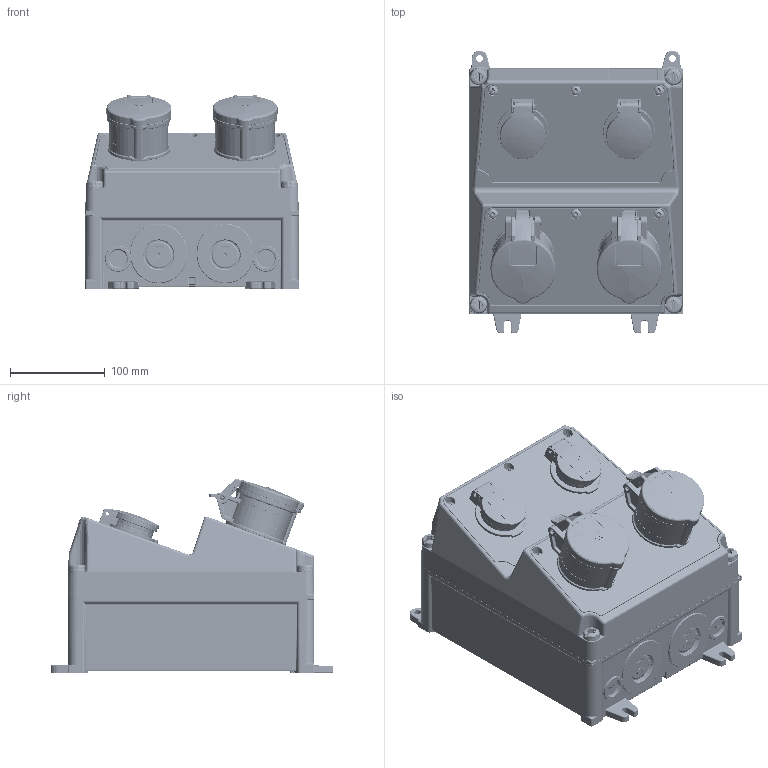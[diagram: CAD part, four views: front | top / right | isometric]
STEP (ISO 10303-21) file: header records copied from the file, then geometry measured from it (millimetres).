
FILE_DESCRIPTION((''),'2;1');
FILE_NAME('920024-1_ASM_1_ASM','2018-04-25T',('kremer'),('MENNEKES'),'PRO/ENGINEER BY PARAMETRIC TECHNOLOGY CORPORATION, 2015440','PRO/ENGINEER BY PARAMETRIC TECHNOLOGY CORPORATION, 2015440','');
FILE_SCHEMA(('AUTOMOTIVE_DESIGN { 1 0 10303 214 1 1 1 1 }'));
Products named in the file (6): 2-4_SW_O_GRAU_1; MP_LEER_GRAU_1; BAUTEIL_DUMMY__1; AMAXX_CEE_16_5_44_ROT_1; AMAXX_SCHUKO_44_BLAU_1; 920024-1_ASM_1_ASM
Assembly tree (9 placements, depth 2):
  920024-1_ASM_1_ASM
    2-4_SW_O_GRAU_1
    MP_LEER_GRAU_1  x2
    BAUTEIL_DUMMY__1  x2
    AMAXX_CEE_16_5_44_ROT_1  x2
    AMAXX_SCHUKO_44_BLAU_1  x2
Bounding box: 225 x 298.2 x 204.71 mm (x, y, z)
Volume: 5653635.2 mm3; surface area: 613464.3 mm2
Topology: 7 solids, 7 shells, 6798 faces, 18206 edges, 11473 vertices
Faces by surface type: plane 2871, cylinder 1756, bspline 865, torus 803, cone 236, sphere 203, extrusion 64
Entity records: 258430 total; most frequent: CARTESIAN_POINT 86401, ORIENTED_EDGE 29044, DIRECTION 25338, EDGE_CURVE 14522, VERTEX_POINT 9210, AXIS2_PLACEMENT_3D 9072, PRESENTATION_STYLE_ASSIGNMENT 7510, STYLED_ITEM 7431
